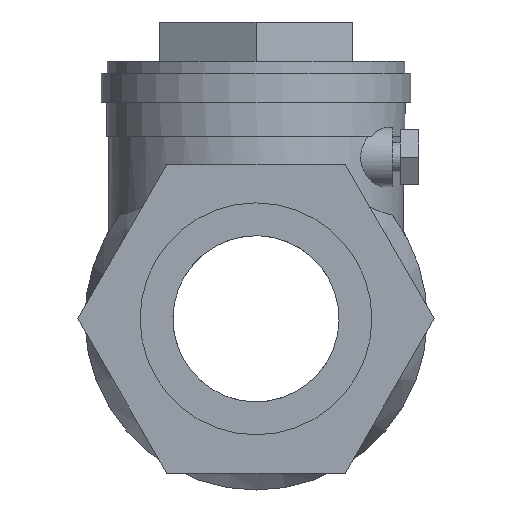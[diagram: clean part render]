
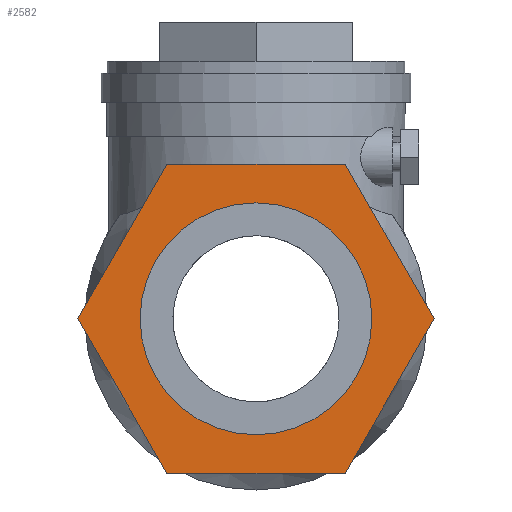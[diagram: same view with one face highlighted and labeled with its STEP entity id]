
A CAD part, left-side view. The second image highlights one B-rep face of the part: STEP entity #2582.
In plain terms, the highlighted planar face has unit normal (-1, 0, 0).
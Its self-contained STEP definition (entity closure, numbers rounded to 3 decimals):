
#2134 = PLANE('',#2135);
#2135 = AXIS2_PLACEMENT_3D('',#2136,#2137,#2138);
#2136 = CARTESIAN_POINT('',(0.,-0.865,0.499));
#2137 = DIRECTION('',(0.,-0.866,0.5));
#2138 = DIRECTION('',(0.,-0.5,-0.866));
#2162 = PLANE('',#2163);
#2163 = AXIS2_PLACEMENT_3D('',#2164,#2165,#2166);
#2164 = CARTESIAN_POINT('',(0.,-0.865,-0.499));
#2165 = DIRECTION('',(0.,-0.866,-0.5));
#2166 = DIRECTION('',(0.,0.5,-0.866));
#2190 = PLANE('',#2191);
#2191 = AXIS2_PLACEMENT_3D('',#2192,#2193,#2194);
#2192 = CARTESIAN_POINT('',(0.,0.,-0.999));
#2193 = DIRECTION('',(0.,0.,-1.));
#2194 = DIRECTION('',(0.,1.,0.));
#2218 = PLANE('',#2219);
#2219 = AXIS2_PLACEMENT_3D('',#2220,#2221,#2222);
#2220 = CARTESIAN_POINT('',(0.,0.865,-0.499));
#2221 = DIRECTION('',(0.,0.866,-0.5));
#2222 = DIRECTION('',(0.,0.5,0.866));
#2246 = PLANE('',#2247);
#2247 = AXIS2_PLACEMENT_3D('',#2248,#2249,#2250);
#2248 = CARTESIAN_POINT('',(0.,0.865,0.499));
#2249 = DIRECTION('',(0.,0.866,0.5));
#2250 = DIRECTION('',(0.,-0.5,0.866));
#2272 = PLANE('',#2273);
#2273 = AXIS2_PLACEMENT_3D('',#2274,#2275,#2276);
#2274 = CARTESIAN_POINT('',(0.,0.,0.999));
#2275 = DIRECTION('',(0.,0.,1.));
#2276 = DIRECTION('',(0.,-1.,0.));
#2289 = VERTEX_POINT('',#2290);
#2290 = CARTESIAN_POINT('',(0.,-0.576,0.999));
#2311 = EDGE_CURVE('',#2312,#2289,#2314,.T.);
#2312 = VERTEX_POINT('',#2313);
#2313 = CARTESIAN_POINT('',(0.,-1.153,0.));
#2314 = SURFACE_CURVE('',#2315,(#2319,#2326),.PCURVE_S1.);
#2315 = LINE('',#2316,#2317);
#2316 = CARTESIAN_POINT('',(0.,-1.153,0.));
#2317 = VECTOR('',#2318,1.);
#2318 = DIRECTION('',(0.,0.5,0.866));
#2319 = PCURVE('',#2134,#2320);
#2320 = DEFINITIONAL_REPRESENTATION('',(#2321),#2325);
#2321 = LINE('',#2322,#2323);
#2322 = CARTESIAN_POINT('',(0.576,0.));
#2323 = VECTOR('',#2324,1.);
#2324 = DIRECTION('',(-1.,0.));
#2325 = ( GEOMETRIC_REPRESENTATION_CONTEXT(2) 
PARAMETRIC_REPRESENTATION_CONTEXT() REPRESENTATION_CONTEXT('2D SPACE',''
  ) );
#2326 = PCURVE('',#2327,#2332);
#2327 = PLANE('',#2328);
#2328 = AXIS2_PLACEMENT_3D('',#2329,#2330,#2331);
#2329 = CARTESIAN_POINT('',(0.,0.,0.)
  );
#2330 = DIRECTION('',(1.,0.,0.));
#2331 = DIRECTION('',(0.,0.,-1.));
#2332 = DEFINITIONAL_REPRESENTATION('',(#2333),#2337);
#2333 = LINE('',#2334,#2335);
#2334 = CARTESIAN_POINT('',(0.,-1.153));
#2335 = VECTOR('',#2336,1.);
#2336 = DIRECTION('',(-0.866,0.5));
#2337 = ( GEOMETRIC_REPRESENTATION_CONTEXT(2) 
PARAMETRIC_REPRESENTATION_CONTEXT() REPRESENTATION_CONTEXT('2D SPACE',''
  ) );
#2365 = VERTEX_POINT('',#2366);
#2366 = CARTESIAN_POINT('',(0.,0.576,0.999));
#2387 = EDGE_CURVE('',#2289,#2365,#2388,.T.);
#2388 = SURFACE_CURVE('',#2389,(#2393,#2400),.PCURVE_S1.);
#2389 = LINE('',#2390,#2391);
#2390 = CARTESIAN_POINT('',(0.,-0.576,0.999));
#2391 = VECTOR('',#2392,1.);
#2392 = DIRECTION('',(0.,1.,0.));
#2393 = PCURVE('',#2272,#2394);
#2394 = DEFINITIONAL_REPRESENTATION('',(#2395),#2399);
#2395 = LINE('',#2396,#2397);
#2396 = CARTESIAN_POINT('',(0.576,0.));
#2397 = VECTOR('',#2398,1.);
#2398 = DIRECTION('',(-1.,0.));
#2399 = ( GEOMETRIC_REPRESENTATION_CONTEXT(2) 
PARAMETRIC_REPRESENTATION_CONTEXT() REPRESENTATION_CONTEXT('2D SPACE',''
  ) );
#2400 = PCURVE('',#2327,#2401);
#2401 = DEFINITIONAL_REPRESENTATION('',(#2402),#2406);
#2402 = LINE('',#2403,#2404);
#2403 = CARTESIAN_POINT('',(-0.999,-0.576));
#2404 = VECTOR('',#2405,1.);
#2405 = DIRECTION('',(0.,1.));
#2406 = ( GEOMETRIC_REPRESENTATION_CONTEXT(2) 
PARAMETRIC_REPRESENTATION_CONTEXT() REPRESENTATION_CONTEXT('2D SPACE',''
  ) );
#2414 = VERTEX_POINT('',#2415);
#2415 = CARTESIAN_POINT('',(0.,1.153,0.));
#2436 = EDGE_CURVE('',#2365,#2414,#2437,.T.);
#2437 = SURFACE_CURVE('',#2438,(#2442,#2449),.PCURVE_S1.);
#2438 = LINE('',#2439,#2440);
#2439 = CARTESIAN_POINT('',(0.,0.576,0.999));
#2440 = VECTOR('',#2441,1.);
#2441 = DIRECTION('',(0.,0.5,-0.866));
#2442 = PCURVE('',#2246,#2443);
#2443 = DEFINITIONAL_REPRESENTATION('',(#2444),#2448);
#2444 = LINE('',#2445,#2446);
#2445 = CARTESIAN_POINT('',(0.576,0.));
#2446 = VECTOR('',#2447,1.);
#2447 = DIRECTION('',(-1.,0.));
#2448 = ( GEOMETRIC_REPRESENTATION_CONTEXT(2) 
PARAMETRIC_REPRESENTATION_CONTEXT() REPRESENTATION_CONTEXT('2D SPACE',''
  ) );
#2449 = PCURVE('',#2327,#2450);
#2450 = DEFINITIONAL_REPRESENTATION('',(#2451),#2455);
#2451 = LINE('',#2452,#2453);
#2452 = CARTESIAN_POINT('',(-0.999,0.576));
#2453 = VECTOR('',#2454,1.);
#2454 = DIRECTION('',(0.866,0.5));
#2455 = ( GEOMETRIC_REPRESENTATION_CONTEXT(2) 
PARAMETRIC_REPRESENTATION_CONTEXT() REPRESENTATION_CONTEXT('2D SPACE',''
  ) );
#2463 = VERTEX_POINT('',#2464);
#2464 = CARTESIAN_POINT('',(0.,0.576,-0.999));
#2485 = EDGE_CURVE('',#2414,#2463,#2486,.T.);
#2486 = SURFACE_CURVE('',#2487,(#2491,#2498),.PCURVE_S1.);
#2487 = LINE('',#2488,#2489);
#2488 = CARTESIAN_POINT('',(0.,1.153,0.));
#2489 = VECTOR('',#2490,1.);
#2490 = DIRECTION('',(0.,-0.5,-0.866));
#2491 = PCURVE('',#2218,#2492);
#2492 = DEFINITIONAL_REPRESENTATION('',(#2493),#2497);
#2493 = LINE('',#2494,#2495);
#2494 = CARTESIAN_POINT('',(0.576,0.));
#2495 = VECTOR('',#2496,1.);
#2496 = DIRECTION('',(-1.,0.));
#2497 = ( GEOMETRIC_REPRESENTATION_CONTEXT(2) 
PARAMETRIC_REPRESENTATION_CONTEXT() REPRESENTATION_CONTEXT('2D SPACE',''
  ) );
#2498 = PCURVE('',#2327,#2499);
#2499 = DEFINITIONAL_REPRESENTATION('',(#2500),#2504);
#2500 = LINE('',#2501,#2502);
#2501 = CARTESIAN_POINT('',(0.,1.153));
#2502 = VECTOR('',#2503,1.);
#2503 = DIRECTION('',(0.866,-0.5));
#2504 = ( GEOMETRIC_REPRESENTATION_CONTEXT(2) 
PARAMETRIC_REPRESENTATION_CONTEXT() REPRESENTATION_CONTEXT('2D SPACE',''
  ) );
#2512 = VERTEX_POINT('',#2513);
#2513 = CARTESIAN_POINT('',(0.,-0.576,-0.999));
#2534 = EDGE_CURVE('',#2463,#2512,#2535,.T.);
#2535 = SURFACE_CURVE('',#2536,(#2540,#2547),.PCURVE_S1.);
#2536 = LINE('',#2537,#2538);
#2537 = CARTESIAN_POINT('',(0.,0.576,-0.999));
#2538 = VECTOR('',#2539,1.);
#2539 = DIRECTION('',(0.,-1.,0.));
#2540 = PCURVE('',#2190,#2541);
#2541 = DEFINITIONAL_REPRESENTATION('',(#2542),#2546);
#2542 = LINE('',#2543,#2544);
#2543 = CARTESIAN_POINT('',(0.576,0.));
#2544 = VECTOR('',#2545,1.);
#2545 = DIRECTION('',(-1.,0.));
#2546 = ( GEOMETRIC_REPRESENTATION_CONTEXT(2) 
PARAMETRIC_REPRESENTATION_CONTEXT() REPRESENTATION_CONTEXT('2D SPACE',''
  ) );
#2547 = PCURVE('',#2327,#2548);
#2548 = DEFINITIONAL_REPRESENTATION('',(#2549),#2553);
#2549 = LINE('',#2550,#2551);
#2550 = CARTESIAN_POINT('',(0.999,0.576));
#2551 = VECTOR('',#2552,1.);
#2552 = DIRECTION('',(0.,-1.));
#2553 = ( GEOMETRIC_REPRESENTATION_CONTEXT(2) 
PARAMETRIC_REPRESENTATION_CONTEXT() REPRESENTATION_CONTEXT('2D SPACE',''
  ) );
#2561 = EDGE_CURVE('',#2512,#2312,#2562,.T.);
#2562 = SURFACE_CURVE('',#2563,(#2567,#2574),.PCURVE_S1.);
#2563 = LINE('',#2564,#2565);
#2564 = CARTESIAN_POINT('',(0.,-0.576,-0.999));
#2565 = VECTOR('',#2566,1.);
#2566 = DIRECTION('',(0.,-0.5,0.866));
#2567 = PCURVE('',#2162,#2568);
#2568 = DEFINITIONAL_REPRESENTATION('',(#2569),#2573);
#2569 = LINE('',#2570,#2571);
#2570 = CARTESIAN_POINT('',(0.576,0.));
#2571 = VECTOR('',#2572,1.);
#2572 = DIRECTION('',(-1.,0.));
#2573 = ( GEOMETRIC_REPRESENTATION_CONTEXT(2) 
PARAMETRIC_REPRESENTATION_CONTEXT() REPRESENTATION_CONTEXT('2D SPACE',''
  ) );
#2574 = PCURVE('',#2327,#2575);
#2575 = DEFINITIONAL_REPRESENTATION('',(#2576),#2580);
#2576 = LINE('',#2577,#2578);
#2577 = CARTESIAN_POINT('',(0.999,-0.576));
#2578 = VECTOR('',#2579,1.);
#2579 = DIRECTION('',(-0.866,-0.5));
#2580 = ( GEOMETRIC_REPRESENTATION_CONTEXT(2) 
PARAMETRIC_REPRESENTATION_CONTEXT() REPRESENTATION_CONTEXT('2D SPACE',''
  ) );
#2582 = ADVANCED_FACE('',(#2583,#2614),#2327,.F.);
#2583 = FACE_BOUND('',#2584,.T.);
#2584 = EDGE_LOOP('',(#2585));
#2585 = ORIENTED_EDGE('',*,*,#2586,.T.);
#2586 = EDGE_CURVE('',#2587,#2587,#2589,.T.);
#2587 = VERTEX_POINT('',#2588);
#2588 = CARTESIAN_POINT('',(0.,-0.75,0.));
#2589 = SURFACE_CURVE('',#2590,(#2595,#2602),.PCURVE_S1.);
#2590 = CIRCLE('',#2591,0.75);
#2591 = AXIS2_PLACEMENT_3D('',#2592,#2593,#2594);
#2592 = CARTESIAN_POINT('',(0.,0.,0.));
#2593 = DIRECTION('',(1.,0.,0.));
#2594 = DIRECTION('',(0.,-1.,0.));
#2595 = PCURVE('',#2327,#2596);
#2596 = DEFINITIONAL_REPRESENTATION('',(#2597),#2601);
#2597 = CIRCLE('',#2598,0.75);
#2598 = AXIS2_PLACEMENT_2D('',#2599,#2600);
#2599 = CARTESIAN_POINT('',(0.,0.));
#2600 = DIRECTION('',(0.,-1.));
#2601 = ( GEOMETRIC_REPRESENTATION_CONTEXT(2) 
PARAMETRIC_REPRESENTATION_CONTEXT() REPRESENTATION_CONTEXT('2D SPACE',''
  ) );
#2602 = PCURVE('',#2603,#2608);
#2603 = CYLINDRICAL_SURFACE('',#2604,0.75);
#2604 = AXIS2_PLACEMENT_3D('',#2605,#2606,#2607);
#2605 = CARTESIAN_POINT('',(0.,0.,0.));
#2606 = DIRECTION('',(1.,0.,0.));
#2607 = DIRECTION('',(0.,-1.,0.));
#2608 = DEFINITIONAL_REPRESENTATION('',(#2609),#2613);
#2609 = LINE('',#2610,#2611);
#2610 = CARTESIAN_POINT('',(0.,0.));
#2611 = VECTOR('',#2612,1.);
#2612 = DIRECTION('',(1.,0.));
#2613 = ( GEOMETRIC_REPRESENTATION_CONTEXT(2) 
PARAMETRIC_REPRESENTATION_CONTEXT() REPRESENTATION_CONTEXT('2D SPACE',''
  ) );
#2614 = FACE_BOUND('',#2615,.T.);
#2615 = EDGE_LOOP('',(#2616,#2617,#2618,#2619,#2620,#2621));
#2616 = ORIENTED_EDGE('',*,*,#2561,.T.);
#2617 = ORIENTED_EDGE('',*,*,#2311,.T.);
#2618 = ORIENTED_EDGE('',*,*,#2387,.T.);
#2619 = ORIENTED_EDGE('',*,*,#2436,.T.);
#2620 = ORIENTED_EDGE('',*,*,#2485,.T.);
#2621 = ORIENTED_EDGE('',*,*,#2534,.T.);
